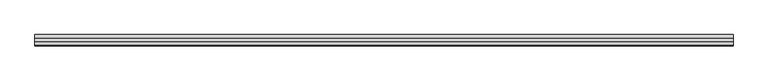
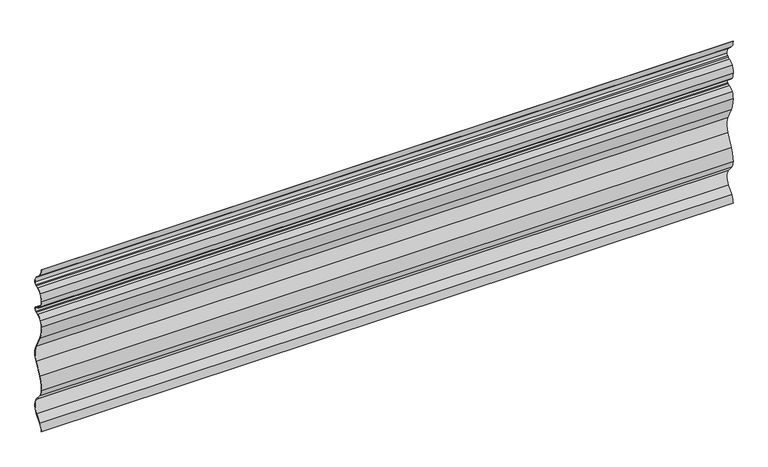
"""IFC4 building model written with IfcOpenShell, lengths in millimetres: plate geometry, Ritmica Horizontal 569 : Ritmica Horizontal 569."""

from ifc_helpers import new_model, si_unit, point, frame, frame_2d, origin, place, context, project, spatial, polyline, circle_curve, trimmed, segment, composite_curve, outline, extrude, source, transform, mapped, element, save


def plate_ec8c995e(model_context):
    return source(origin(), model_context, "Body", "SweptSolid", [
        extrude(outline(composite_curve([segment(polyline([(13.0041751, 541.9153798), (24.9944155, 530.8116067)]), True, "CONTINUOUS"), segment(trimmed(circle_curve(frame_2d((5.1337511, 505.8414768)), 31.9053816), [point((24.9944155, 530.8116067))], [point((37.0391328, 505.8415328))], False, "CARTESIAN"), True, "CONTINUOUS"), segment(trimmed(circle_curve(frame_2d((28.1777883, 505.8415173)), 8.8613444), [point((37.0391328, 505.8415328))], [point((32.0109137, 497.8521133))], False, "CARTESIAN"), True, "CONTINUOUS"), segment(polyline([(32.0109137, 497.8521133), (28.5470359, 496.1902275), (21.3536582, 493.3060102)]), True, "CONTINUOUS"), segment(trimmed(circle_curve(frame_2d((32.7342413, 464.8830737)), 30.6166783), [point((21.3536582, 493.3060102))], [point((6.6099108, 480.8486726))], True, "CARTESIAN"), True, "CONTINUOUS"), segment(trimmed(circle_curve(frame_2d((42.1174322, 459.7699907)), 41.2927948), [point((6.6099108, 480.8486726))], [point((0.9119804, 457.0856569))], True, "CARTESIAN"), True, "CONTINUOUS"), segment(trimmed(circle_curve(frame_2d((38.3623024, 457.0992876)), 37.4503244), [point((0.9119804, 457.0856569))], [point((6.421242, 437.5469103))], True, "CARTESIAN"), True, "CONTINUOUS"), segment(trimmed(circle_curve(frame_2d((32.5339442, 453.5315208)), 30.6166783), [point((6.421242, 437.5469103))], [point((21.1740872, 425.1002943))], True, "CARTESIAN"), True, "CONTINUOUS"), segment(polyline([(21.1740872, 425.1002943), (28.3695305, 422.2213272), (31.8346168, 420.5619636)]), True, "CONTINUOUS"), segment(trimmed(circle_curve(frame_2d((28.0073087, 412.5697711)), 8.8613445), [point((31.8346168, 420.5619636))], [point((31.8404338, 404.580367))], False, "CARTESIAN"), True, "CONTINUOUS"), segment(polyline([(31.8404338, 404.580367), (28.3765563, 402.9184814), (21.1832107, 400.034277)]), True, "CONTINUOUS"), segment(trimmed(circle_curve(frame_2d((32.5637615, 371.6113276)), 30.6166783), [point((21.1832107, 400.034277))], [point((6.43943, 387.5769248))], True, "CARTESIAN"), True, "CONTINUOUS"), segment(trimmed(circle_curve(frame_2d((38.3947153, 368.0478045)), 37.4503244), [point((6.43943, 387.5769248))], [point((0.9443934, 368.0341733))], True, "CARTESIAN"), True, "CONTINUOUS"), segment(trimmed(circle_curve(frame_2d((94.1805508, 364.7672254)), 93.293376), [point((0.9443934, 368.0341733))], [point((10.1258951, 324.2892209))], True, "CARTESIAN"), True, "CONTINUOUS"), segment(polyline([(10.1258951, 324.2892209), (30.5225618, 283.7581494)]), True, "CONTINUOUS"), segment(trimmed(circle_curve(frame_2d((-23.0735302, 256.7867029)), 60.0), [point((30.5225618, 283.7581494))], [point((30.5421817, 229.8542794))], False, "CARTESIAN"), True, "CONTINUOUS"), segment(polyline([(30.5421817, 229.8542794), (10.1750254, 189.3083707)]), True, "CONTINUOUS"), segment(trimmed(circle_curve(frame_2d((94.2591252, 148.8915653)), 93.293376), [point((10.1750254, 189.3083707))], [point((1.0253707, 145.5567461))], True, "CARTESIAN"), True, "CONTINUOUS"), segment(trimmed(circle_curve(frame_2d((38.1567885, 145.5702612)), 37.1314203), [point((1.0253707, 145.5567461))], [point((9.6372318, 121.7925982))], True, "CARTESIAN"), True, "CONTINUOUS"), segment(polyline([(9.6372318, 121.7925982), (28.333023, 99.3683726)]), True, "CONTINUOUS"), segment(trimmed(circle_curve(frame_2d((-7.0115301, 72.9267773)), 44.1406321), [point((28.333023, 99.3683726))], [point((28.3522621, 46.5109184))], False, "CARTESIAN"), True, "CONTINUOUS"), segment(polyline([(28.3522621, 46.5109184), (9.6727997, 23.7707747)]), True, "CONTINUOUS"), segment(trimmed(circle_curve(frame_2d((38.2096581, 0.0138791)), 37.1314203), [point((9.6727997, 23.7707747))], [point((1.0782404, 0.0))], True, "CARTESIAN"), True, "CONTINUOUS"), segment(polyline([(1.0782404, 0.0), (0.0782403, 0.0)]), True, "CONTINUOUS"), segment(trimmed(circle_curve(frame_2d((38.2096581, 0.0138791)), 38.1314203), [point((0.0782403, 0.0))], [point((8.904263, 24.4105804))], False, "CARTESIAN"), True, "CONTINUOUS"), segment(polyline([(8.904263, 24.4105804), (27.5667713, 47.1303588)]), True, "CONTINUOUS"), segment(trimmed(circle_curve(frame_2d((-7.0115301, 72.9267773)), 43.1406321), [point((27.5667713, 47.1303588))], [point((27.5479834, 98.7483605))], True, "CARTESIAN"), True, "CONTINUOUS"), segment(polyline([(27.5479834, 98.7483605), (8.869161, 121.1522332)]), True, "CONTINUOUS"), segment(trimmed(circle_curve(frame_2d((38.1567885, 145.5702612)), 38.1314203), [point((8.869161, 121.1522332))], [point((0.0253813, 145.5386154))], False, "CARTESIAN"), True, "CONTINUOUS"), segment(trimmed(circle_curve(frame_2d((94.2591252, 148.8915653)), 94.293376), [point((0.0253813, 145.5386154))], [point((9.2775265, 189.7494732))], False, "CARTESIAN"), True, "CONTINUOUS"), segment(polyline([(9.2775265, 189.7494732), (29.6485865, 230.3031531)]), True, "CONTINUOUS"), segment(trimmed(circle_curve(frame_2d((-23.0735302, 256.7867029)), 59.0), [point((29.6485865, 230.3031531))], [point((29.6292936, 283.3086253))], True, "CARTESIAN"), True, "CONTINUOUS"), segment(polyline([(29.6292936, 283.3086253), (9.2287176, 323.8474651)]), True, "CONTINUOUS"), segment(trimmed(circle_curve(frame_2d((94.1805508, 364.7672254)), 94.293376), [point((9.2287176, 323.8474651))], [point((-0.0556089, 368.0515751))], False, "CARTESIAN"), True, "CONTINUOUS"), segment(trimmed(circle_curve(frame_2d((38.3947153, 368.0478045)), 38.4503244), [point((-0.0556089, 368.0515751))], [point((5.5861588, 388.0983921))], False, "CARTESIAN"), True, "CONTINUOUS"), segment(trimmed(circle_curve(frame_2d((32.5637615, 371.6113276)), 31.6166783), [point((5.5861588, 388.0983921))], [point((20.8112764, 400.9625361))], False, "CARTESIAN"), True, "CONTINUOUS"), segment(polyline([(20.8112764, 400.9625361), (27.9737571, 403.834365), (31.4078668, 405.4819688)]), True, "CONTINUOUS"), segment(trimmed(circle_curve(frame_2d((28.0073087, 412.5697711)), 7.8613445), [point((31.4078668, 405.4819688))], [point((31.4027063, 419.6600471))], True, "CARTESIAN"), True, "CONTINUOUS"), segment(polyline([(31.4027063, 419.6600471), (27.967398, 421.3051505), (20.8028287, 424.1717647)]), True, "CONTINUOUS"), segment(trimmed(circle_curve(frame_2d((32.5339442, 453.5315208)), 31.6166783), [point((20.8028287, 424.1717647))], [point((5.5683505, 437.024822))], False, "CARTESIAN"), True, "CONTINUOUS"), segment(trimmed(circle_curve(frame_2d((38.3623024, 457.0992876)), 38.4503244), [point((5.5683505, 437.024822))], [point((-0.0879941, 457.0529178))], False, "CARTESIAN"), True, "CONTINUOUS"), segment(trimmed(circle_curve(frame_2d((42.1174322, 459.7699907)), 42.2927948), [point((-0.0879941, 457.0529178))], [point((5.7532833, 481.3646468))], False, "CARTESIAN"), True, "CONTINUOUS"), segment(trimmed(circle_curve(frame_2d((32.7342413, 464.8830737)), 31.6166782), [point((5.7532833, 481.3646468))], [point((20.9816887, 494.2342551))], False, "CARTESIAN"), True, "CONTINUOUS"), segment(polyline([(20.9816887, 494.2342551), (28.1442367, 497.1061111), (31.5783466, 498.7537151)]), True, "CONTINUOUS"), segment(trimmed(circle_curve(frame_2d((28.1777883, 505.8415173)), 7.8613444), [point((31.5783466, 498.7537151))], [point((36.0391328, 505.841531))], True, "CARTESIAN"), True, "CONTINUOUS"), segment(trimmed(circle_curve(frame_2d((5.1337511, 505.8414768)), 30.9053816), [point((36.0391328, 505.841531))], [point((24.3427409, 530.052163))], True, "CARTESIAN"), True, "CONTINUOUS"), segment(polyline([(24.3427409, 530.052163), (12.3247111, 541.1816709)]), True, "CONTINUOUS"), segment(trimmed(circle_curve(frame_2d((38.450322, 569.3930144)), 38.4503244), [point((12.3247111, 541.1816709))], [point((0.0, 569.3793833))], False, "CARTESIAN"), True, "CONTINUOUS"), segment(polyline([(0.0, 569.3793833), (1.0000001, 569.3793833)]), True, "CONTINUOUS"), segment(trimmed(circle_curve(frame_2d((38.450322, 569.3930144)), 37.4503244), [point((1.0000001, 569.3793833))], [point((13.0041751, 541.9153798))], True, "CARTESIAN"), True, "CONTINUOUS")], self_intersect=False)), frame((-1149.0935453, 0.0, 0.0), z_axis=(1.0, 0.0, 0.0), x_axis=(0.0, 1.0, 0.0)), (0.0, 0.0, 1.0), 2298.1870906),
    ])


if __name__ == "__main__":
    model = new_model("IFC4")
    model_context = context("Model", 3, world=origin())
    ifc_project = project(units=[si_unit("LENGTHUNIT", "METRE", prefix="MILLI")], contexts=[model_context])
    site = spatial("IfcSite", under=ifc_project)
    building = spatial("IfcBuilding", under=site)
    placement = place(None, origin())
    plate_shape = plate_ec8c995e(model_context)
    element("IfcPlate", 1, ObjectType="Ritmica Horizontal 569 : Ritmica Horizontal 569", at=placement, inside=building, context=model_context, shape_type="MappedRepresentation", body=[
        mapped(plate_shape, transform((0.0, 0.0, 0.0), x_axis=(1.0, 0.0, 0.0), y_axis=(0.0, 1.0, 0.0), z_axis=(0.0, 0.0, 1.0))),
    ])
    save(model, "model.ifc")
